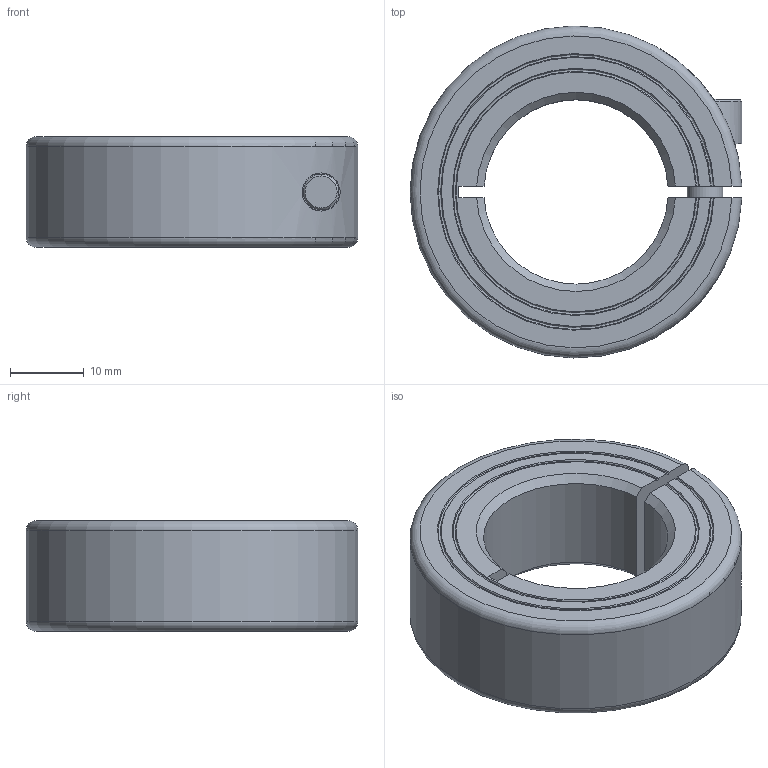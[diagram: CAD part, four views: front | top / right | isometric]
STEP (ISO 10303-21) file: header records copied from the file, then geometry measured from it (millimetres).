
FILE_DESCRIPTION((''),'2;1');
FILE_NAME('MCL-25-F','2016-09-08T',('SYSTEM'),(''),'PRO/ENGINEER BY PARAMETRIC TECHNOLOGY CORPORATION, 2015110','PRO/ENGINEER BY PARAMETRIC TECHNOLOGY CORPORATION, 2015110','');
FILE_SCHEMA(('AUTOMOTIVE_DESIGN { 1 0 10303 214 1 1 1 1 }'));
Length unit declared in the file: inch
Products named in the file (1): MCL-25-F
Bounding box: 45 x 44.99 x 15 mm (x, y, z)
Volume: 15587 mm3; surface area: 6528.6 mm2
Topology: 1 solids, 1 shells, 54 faces, 142 edges, 94 vertices
Faces by surface type: plane 21, cone 14, cylinder 14, torus 5
Entity records: 2249 total; most frequent: CARTESIAN_POINT 469, ORIENTED_EDGE 284, DIRECTION 275, EDGE_CURVE 142, AXIS2_PLACEMENT_3D 108, VERTEX_POINT 94, EDGE_LOOP 60, VECTOR 59
